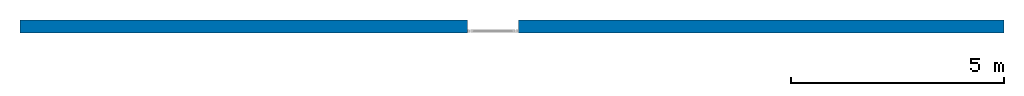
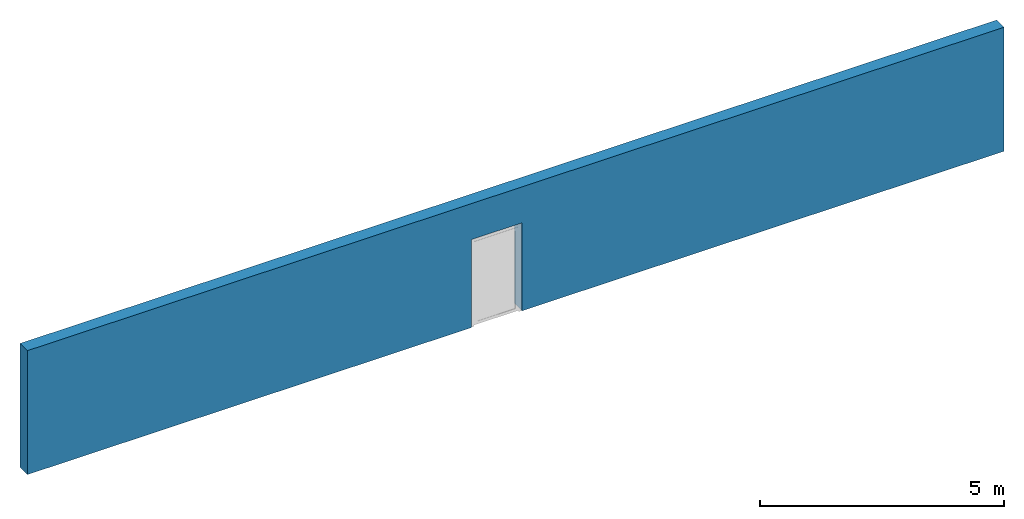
# One storey, part 1 of 2: 1 wall, 1 opening.
"""IFC2X3 building model written with IfcOpenShell, lengths in metres."""

from ifc_helpers import new_model, entity, si_unit, converted_unit, derived_unit, direction, frame, frame_2d, origin, place, context, subcontext, project, spatial, rectangle, extrude, material, layer, layer_set, layer_usage, type_object, element, save


model = new_model("IFC2X3")

# Units and contexts
model_context = context("Model", 3, precision=1e-05, world=origin(), true_north=direction((6.12303176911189e-17, 1.0)))
body_context = subcontext(model_context, "Body", "Model", "MODEL_VIEW")
ifc_project = project(units=[si_unit("LENGTHUNIT", "METRE"), si_unit("AREAUNIT", "SQUARE_METRE"), si_unit("VOLUMEUNIT", "CUBIC_METRE"), converted_unit("PLANEANGLEUNIT", "DEGREE", entity("IfcRatioMeasure", 0.0174532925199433), si_unit("PLANEANGLEUNIT", "RADIAN"), dimensions=[0, 0, 0, 0, 0, 0, 0]), si_unit("MASSUNIT", "GRAM", prefix="KILO"), derived_unit("MASSDENSITYUNIT", [(si_unit("MASSUNIT", "GRAM", prefix="KILO"), 1), (si_unit("LENGTHUNIT", "METRE"), -3)]), si_unit("TIMEUNIT", "SECOND"), si_unit("FREQUENCYUNIT", "HERTZ"), si_unit("THERMODYNAMICTEMPERATUREUNIT", "DEGREE_CELSIUS"), derived_unit("THERMALTRANSMITTANCEUNIT", [(si_unit("MASSUNIT", "GRAM", prefix="KILO"), 1), (si_unit("THERMODYNAMICTEMPERATUREUNIT", "KELVIN"), -1), (si_unit("TIMEUNIT", "SECOND"), -3)]), derived_unit("VOLUMETRICFLOWRATEUNIT", [(si_unit("LENGTHUNIT", "METRE"), 3), (si_unit("TIMEUNIT", "SECOND"), -1)]), si_unit("ELECTRICCURRENTUNIT", "AMPERE"), si_unit("ELECTRICVOLTAGEUNIT", "VOLT"), si_unit("POWERUNIT", "WATT"), si_unit("FORCEUNIT", "NEWTON", prefix="KILO"), si_unit("ILLUMINANCEUNIT", "LUX"), si_unit("LUMINOUSFLUXUNIT", "LUMEN"), si_unit("LUMINOUSINTENSITYUNIT", "CANDELA"), derived_unit("USERDEFINED", [(si_unit("MASSUNIT", "GRAM", prefix="KILO"), -1), (si_unit("LENGTHUNIT", "METRE"), -2), (si_unit("TIMEUNIT", "SECOND"), 3), (si_unit("LUMINOUSFLUXUNIT", "LUMEN"), 1)]), derived_unit("LINEARVELOCITYUNIT", [(si_unit("LENGTHUNIT", "METRE"), 1), (si_unit("TIMEUNIT", "SECOND"), -1)]), si_unit("PRESSUREUNIT", "PASCAL"), derived_unit("USERDEFINED", [(si_unit("LENGTHUNIT", "METRE"), -2), (si_unit("MASSUNIT", "GRAM", prefix="KILO"), 1), (si_unit("TIMEUNIT", "SECOND"), -2)])], contexts=[model_context])

# Site, building, storey
site_placement = place(None, origin())
site = spatial("IfcSite", under=ifc_project, at=site_placement, Name="Default", CompositionType="ELEMENT")
building_placement = place(site_placement, origin())
building = spatial("IfcBuilding", under=site, at=building_placement, CompositionType="ELEMENT")
storey_placement = place(building_placement, origin())
storey = spatial("IfcBuildingStorey", under=building, at=storey_placement, Name="0 - Piano Terra", CompositionType="ELEMENT", Elevation=0.0)

# Wall, opening
ifc_material = material(Name="Default - Muro")
ifc_layer = layer(ifc_material, 0.3)
ifc_layer_set = layer_set([ifc_layer], Name="Muro di base:Generico - 30 cm")
ifc_layer_usage = layer_usage(ifc_layer_set, "AXIS2", "NEGATIVE", 0.15)
wall_type = type_object("IfcWallType", Name="Muro di base:Generico - 30 cm", PredefinedType="STANDARD", material=ifc_layer_set)
wall_placement = place(storey_placement, frame((-13.6096750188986, -0.858885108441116, 0.0)))
wall = element("IfcWallStandardCase", 1, at=wall_placement, inside=storey, type_object=wall_type, material=ifc_layer_usage, Name="Muro di base:Generico - 30 cm", ObjectType="Muro di base:Generico - 30 cm:952", context=body_context, shape_type="SweptSolid", body=[
    extrude(rectangle(XDim=23.1, YDim=0.3, at=frame_2d((11.55, 2.77555756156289e-17), x_axis=(-1.0, 0.0))), origin(), (0.0, 0.0, 1.0), 3.1),
])
opening_placement = place(wall_placement, frame((11.7, 0.149999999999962, 0.0)))
element("IfcOpeningElement", 2, at=opening_placement, cuts=wall, Name="BIM_AluK_D77_1 anta:BIM_AluK_D77_1 anta:1", ObjectType="Opening", context=body_context, shape_type="SweptSolid", body=[
    extrude(rectangle(XDim=2.19999999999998, YDim=1.2, at=frame_2d((1.09999999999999, 0.6), x_axis=(1.0, 0.0))), frame((0.0, 0.0, 0.0), z_axis=(0.0, -1.0, 0.0), x_axis=(0.0, 0.0, 1.0)), (0.0, 0.0, 1.0), 0.3),
])

save(model, "model.ifc")
